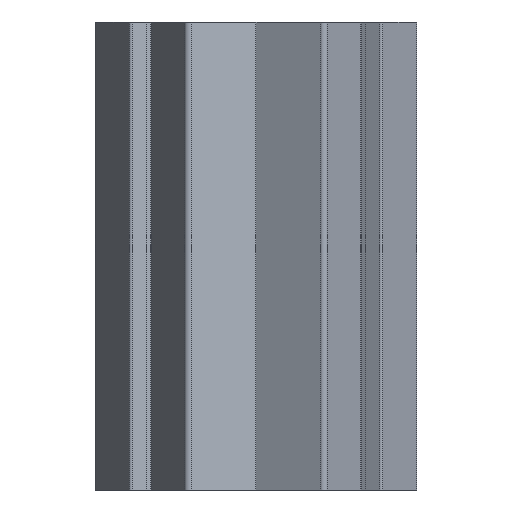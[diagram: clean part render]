
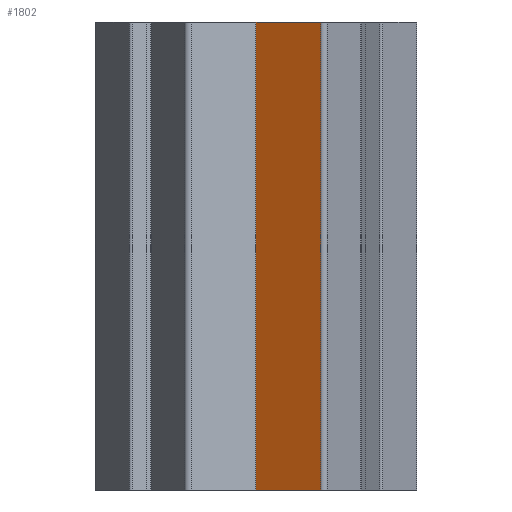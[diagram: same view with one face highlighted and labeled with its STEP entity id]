
A CAD part, front view. The second image highlights one B-rep face of the part: STEP entity #1802.
In plain terms, the highlighted planar face has unit normal (-0.5, -0.866, 0).
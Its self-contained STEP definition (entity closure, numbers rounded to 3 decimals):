
#62 = DIRECTION ( 'NONE',  ( 0.866, -0.5, 0. ) ) ;
#133 = LINE ( 'NONE', #1152, #307 ) ;
#307 = VECTOR ( 'NONE', #1129, 1000. ) ;
#331 = EDGE_CURVE ( 'NONE', #1471, #3204, #971, .T. ) ;
#628 = AXIS2_PLACEMENT_3D ( 'NONE', #1310, #2764, #62 ) ;
#631 = DIRECTION ( 'NONE',  ( 0.866, -0.5, 0. ) ) ;
#685 = DIRECTION ( 'NONE',  ( 0.866, -0.5, 0. ) ) ;
#814 = VERTEX_POINT ( 'NONE', #3202 ) ;
#838 = LINE ( 'NONE', #3050, #3125 ) ;
#867 = ORIENTED_EDGE ( 'NONE', *, *, #1997, .F. ) ;
#971 = LINE ( 'NONE', #3187, #2529 ) ;
#977 = ORIENTED_EDGE ( 'NONE', *, *, #331, .T. ) ;
#1059 = DIRECTION ( 'NONE',  ( 0., 0., 1. ) ) ;
#1129 = DIRECTION ( 'NONE',  ( 0., 0., 1. ) ) ;
#1152 = CARTESIAN_POINT ( 'NONE',  ( 0., -19.606, -100. ) ) ;
#1186 = ORIENTED_EDGE ( 'NONE', *, *, #1579, .F. ) ;
#1310 = CARTESIAN_POINT ( 'NONE',  ( 0., -19.606, -100. ) ) ;
#1315 = CARTESIAN_POINT ( 'NONE',  ( 13.875, -27.617, -100. ) ) ;
#1471 = VERTEX_POINT ( 'NONE', #1752 ) ;
#1579 = EDGE_CURVE ( 'NONE', #1471, #814, #133, .T. ) ;
#1632 = VERTEX_POINT ( 'NONE', #1839 ) ;
#1752 = CARTESIAN_POINT ( 'NONE',  ( 0., -19.606, -100. ) ) ;
#1763 = PLANE ( 'NONE',  #628 ) ;
#1802 = ADVANCED_FACE ( 'NONE', ( #2313 ), #1763, .T. ) ;
#1839 = CARTESIAN_POINT ( 'NONE',  ( 13.875, -27.617, 0. ) ) ;
#1949 = EDGE_CURVE ( 'NONE', #3204, #1632, #2838, .T. ) ;
#1997 = EDGE_CURVE ( 'NONE', #814, #1632, #838, .T. ) ;
#2056 = ORIENTED_EDGE ( 'NONE', *, *, #1949, .T. ) ;
#2313 = FACE_OUTER_BOUND ( 'NONE', #3044, .T. ) ;
#2492 = VECTOR ( 'NONE', #1059, 1000. ) ;
#2529 = VECTOR ( 'NONE', #685, 1000. ) ;
#2764 = DIRECTION ( 'NONE',  ( -0.5, -0.866, 0. ) ) ;
#2838 = LINE ( 'NONE', #1315, #2492 ) ;
#3044 = EDGE_LOOP ( 'NONE', ( #867, #1186, #977, #2056 ) ) ;
#3050 = CARTESIAN_POINT ( 'NONE',  ( 0., -19.606, 0. ) ) ;
#3124 = CARTESIAN_POINT ( 'NONE',  ( 13.875, -27.617, -100. ) ) ;
#3125 = VECTOR ( 'NONE', #631, 1000. ) ;
#3187 = CARTESIAN_POINT ( 'NONE',  ( 0., -19.606, -100. ) ) ;
#3202 = CARTESIAN_POINT ( 'NONE',  ( 0., -19.606, 0. ) ) ;
#3204 = VERTEX_POINT ( 'NONE', #3124 ) ;
